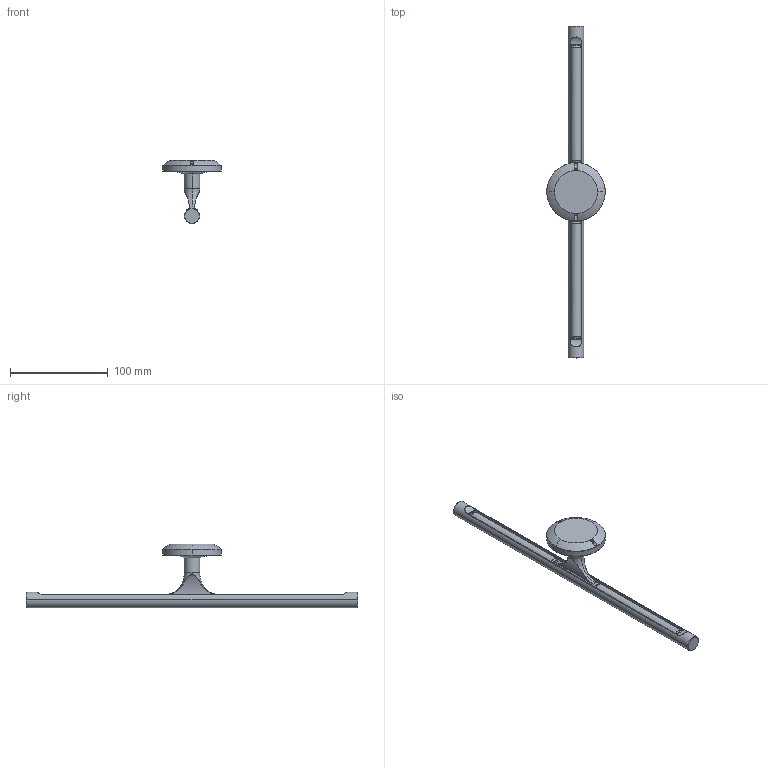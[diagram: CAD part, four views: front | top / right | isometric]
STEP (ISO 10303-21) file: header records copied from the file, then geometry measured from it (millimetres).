
FILE_DESCRIPTION (( 'STEP AP203' ), '1' );
FILE_NAME ('Gallery - 340 Wall Lamp.STEP', '2024-03-25T00:12:19', ( '' ), ( '' ), 'SwSTEP 2.0', 'SolidWorks 2017', '' );
FILE_SCHEMA (( 'CONFIG_CONTROL_DESIGN' ));
Length unit declared in the file: millimetre
Products named in the file (1): Gallery - 340 Wall Lamp
Bounding box: 60 x 340 x 65 mm (x, y, z)
Volume: 94785.1 mm3; surface area: 38553.3 mm2
Topology: 3 solids, 3 shells, 214 faces, 539 edges, 330 vertices
Faces by surface type: plane 84, cylinder 69, bspline 30, torus 23, sphere 6, cone 2
Entity records: 8509 total; most frequent: CARTESIAN_POINT 3546, ORIENTED_EDGE 1062, DIRECTION 974, EDGE_CURVE 531, AXIS2_PLACEMENT_3D 366, VERTEX_POINT 328, VECTOR 242, LINE 242
